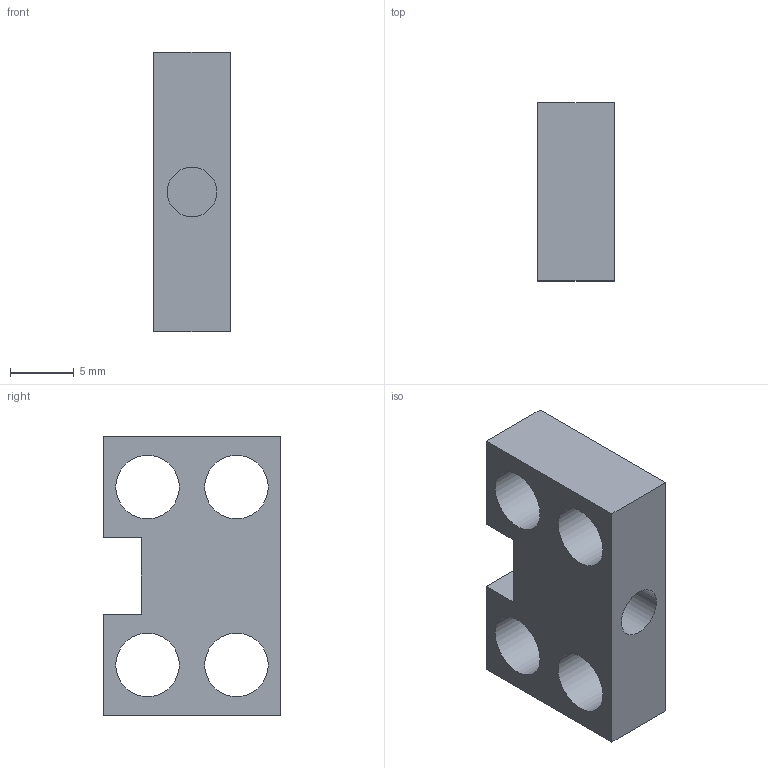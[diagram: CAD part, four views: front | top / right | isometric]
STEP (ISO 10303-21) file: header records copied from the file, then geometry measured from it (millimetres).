
FILE_DESCRIPTION(/* description */ (''),/* implementation_level */ '2;1');
FILE_NAME(/* name */ 'C:\Users\Diego\Downloads\9\Animalitos\SoporteCotraEje.stp',/* time_stamp */ '2019-07-10T16:15:43-04:00',/* author */ ('Diego'),/* organization */ (''),/* preprocessor_version */ 'ST-DEVELOPER v16.5',/* originating_system */ 'Autodesk Inventor 2017',/* authorisation */ '');
FILE_SCHEMA (('AUTOMOTIVE_DESIGN { 1 0 10303 214 3 1 1 }'));
Length unit declared in the file: millimetre
Products named in the file (1): SoporteCotraEje
Bounding box: 6 x 14 x 22 mm (x, y, z)
Volume: 1143.3 mm3; surface area: 1396.6 mm2
Topology: 1 solids, 1 shells, 16 faces, 39 edges, 26 vertices
Faces by surface type: plane 11, cylinder 5
Full cylindrical faces by diameter (mm): 3.9 x1, 5 x4
Entity records: 488 total; most frequent: DIRECTION 78, CARTESIAN_POINT 77, ORIENTED_EDGE 68, EDGE_CURVE 34, EDGE_LOOP 30, AXIS2_PLACEMENT_3D 27, VERTEX_POINT 26, LINE 24
